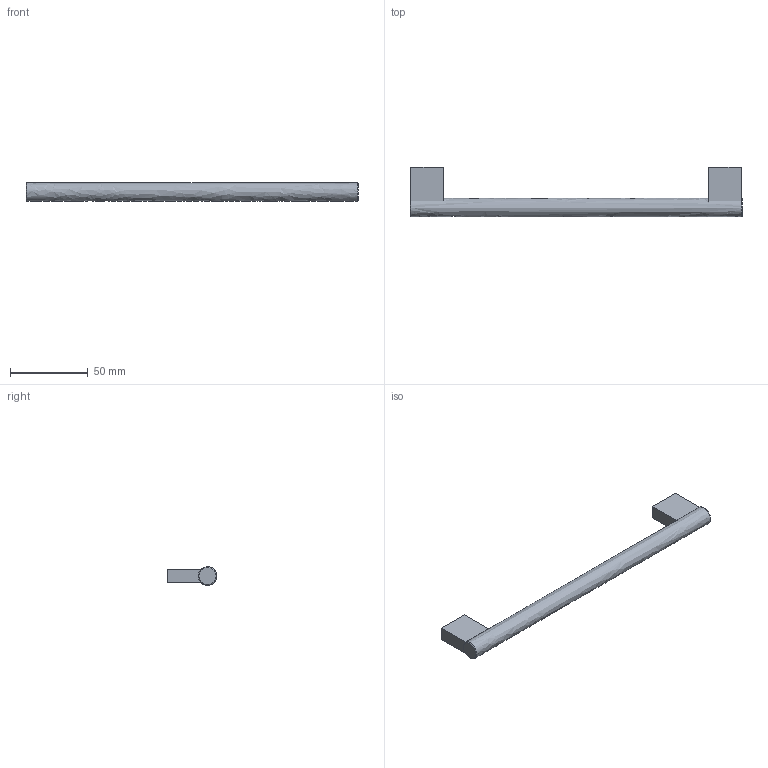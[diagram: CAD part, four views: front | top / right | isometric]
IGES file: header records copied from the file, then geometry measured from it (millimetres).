
Start section: Data from Parasolid IGES Translator 15.0.47, Copyright(c) 2006 Siemens P LM Software. All Rights Reserved.
Global section: file name:  115243.igs; native system:  By UGS Corp.; preprocessor: XPlus GENERIC/IGES 3.0; author: Noname; organization: Noname; date: 20140122.155540; units: millimetre
Bounding box: 214 x 32 x 12 mm (x, y, z)
Surface area: 11128.9 mm2 (no closed solid volume)
Topology: 0 solids, 0 shells, 19 faces, 80 edges, 76 vertices
Faces by surface type: extrusion 14, revolution 5
